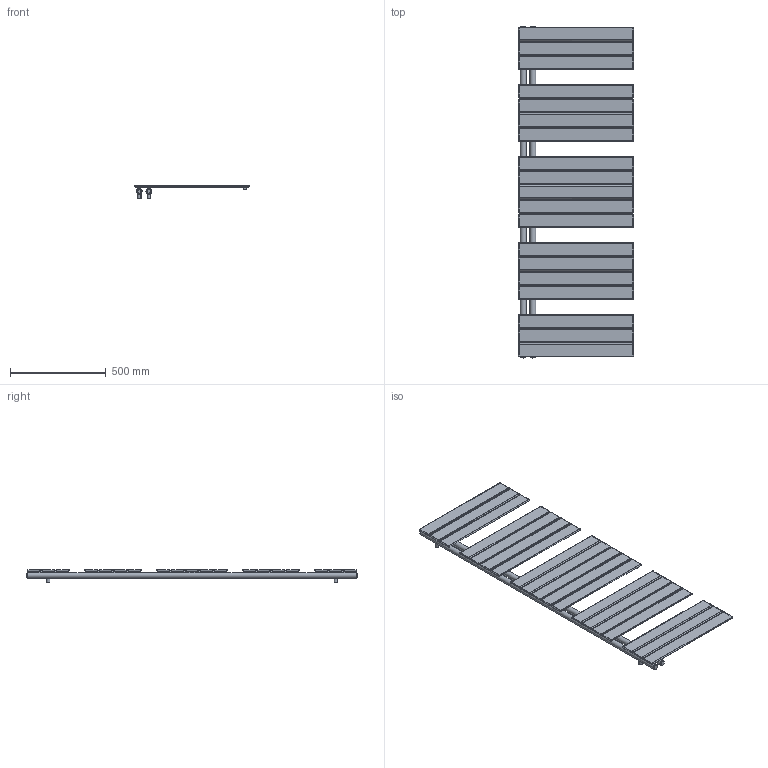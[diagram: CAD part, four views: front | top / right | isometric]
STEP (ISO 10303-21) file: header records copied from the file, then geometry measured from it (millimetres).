
FILE_DESCRIPTION(/* description */ (''),/* implementation_level */ '2;1');
FILE_NAME(/* name */ 'C:\Grzejniki\13DLUXRAD\łazienkowe\ATAKAMA\ATAKAMA 1720x600.iam.stp',/* time_stamp */ '2016-06-28T17:34:19+02:00',/* author */ ('m.szydziak'),/* organization */ (''),/* preprocessor_version */ 'ST-DEVELOPER v16.5',/* originating_system */ 'Autodesk Inventor 2017',/* authorisation */ '');
FILE_SCHEMA (('AUTOMOTIVE_DESIGN { 1 0 10303 214 3 1 1 }'));
Length unit declared in the file: millimetre
Products named in the file (9): ATAKAMA 1720x600; fi30x1,5x1720 v2; 70x8x1,2x604 OPEN; michałek; uchwyt stały; korek; Pfi25; Pfi25 260; Pfi25 340
Assembly tree (72 placements, depth 2):
  ATAKAMA 1720x600
    fi30x1,5x1720 v2  x2
    70x8x1,2x604 OPEN  x19
    michałek  x38
    uchwyt stały  x4
    korek  x4
    Pfi25  x2
    Pfi25 260  x2
    Pfi25 340
Bounding box: 600 x 1732 x 67.5 mm (x, y, z)
Volume: 2378967.1 mm3; surface area: 4055189.3 mm2
Topology: 72 solids, 72 shells, 791 faces, 1707 edges, 1066 vertices
Faces by surface type: cylinder 367, plane 272, sphere 152
Full cylindrical faces by diameter (mm): 8 x38, 9 x38, 10 x76, 11.5 x38, 15 x9, 18 x4, 18.631 x4, 24 x4, 27 x2, 30 x2
Entity records: 4210 total; most frequent: CARTESIAN_POINT 1739, DIRECTION 483, ORIENTED_EDGE 308, AXIS2_PLACEMENT_3D 221, EDGE_LOOP 168, EDGE_CURVE 154, VERTEX_POINT 126, FACE_BOUND 85
